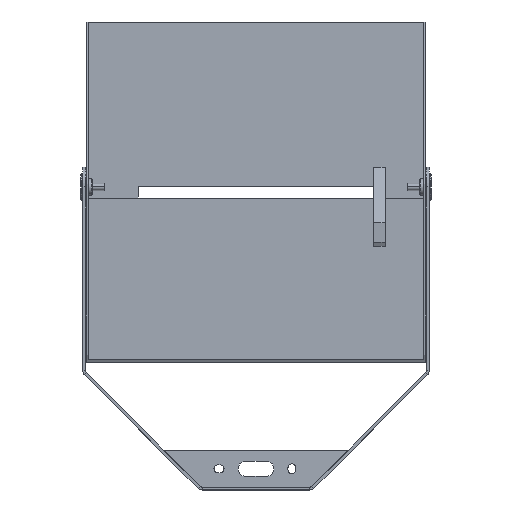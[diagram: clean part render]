
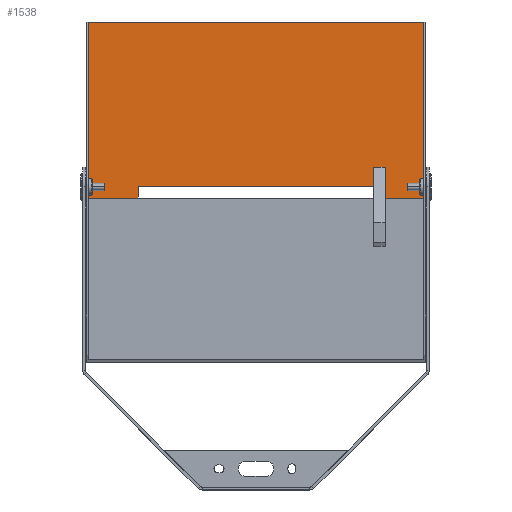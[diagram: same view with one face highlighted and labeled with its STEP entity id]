
A CAD part, top view. The second image highlights one B-rep face of the part: STEP entity #1538.
In plain terms, the highlighted planar face has unit normal (0, 0, 1).
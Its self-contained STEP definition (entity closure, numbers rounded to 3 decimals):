
#49=DIRECTION('',(0.,-1.,0.));
#50=VECTOR('',#49,43.985);
#51=CARTESIAN_POINT('',(179.75,35.525,28.));
#52=LINE('',#51,#50);
#53=DIRECTION('',(-1.,0.,0.));
#54=VECTOR('',#53,16.);
#55=CARTESIAN_POINT('',(179.75,35.525,28.));
#56=LINE('',#55,#54);
#57=DIRECTION('',(0.,1.,0.));
#58=VECTOR('',#57,27.065);
#59=CARTESIAN_POINT('',(163.75,8.46,28.));
#60=LINE('',#59,#58);
#61=DIRECTION('',(1.,0.,0.));
#62=VECTOR('',#61,327.5);
#63=CARTESIAN_POINT('',(-163.75,8.46,28.));
#64=LINE('',#63,#62);
#65=DIRECTION('',(0.,1.,0.));
#66=VECTOR('',#65,16.92);
#67=CARTESIAN_POINT('',(-163.75,-8.46,28.));
#68=LINE('',#67,#66);
#69=DIRECTION('',(0.,-1.,0.));
#70=VECTOR('',#69,246.376);
#71=CARTESIAN_POINT('',(-233.76,237.916,28.));
#72=LINE('',#71,#70);
#73=DIRECTION('',(1.,0.,0.));
#74=VECTOR('',#73,467.52);
#75=CARTESIAN_POINT('',(-233.76,237.916,28.));
#76=LINE('',#75,#74);
#77=DIRECTION('',(0.,-1.,0.));
#78=VECTOR('',#77,246.376);
#79=CARTESIAN_POINT('',(233.76,237.916,28.));
#80=LINE('',#79,#78);
#113=DIRECTION('',(1.,0.,0.));
#114=VECTOR('',#113,54.01);
#115=CARTESIAN_POINT('',(179.75,-8.46,28.));
#116=LINE('',#115,#114);
#125=DIRECTION('',(1.,0.,0.));
#126=VECTOR('',#125,70.01);
#127=CARTESIAN_POINT('',(-233.76,-8.46,28.));
#128=LINE('',#127,#126);
#1107=CARTESIAN_POINT('',(233.76,237.916,28.));
#1108=VERTEX_POINT('',#1107);
#1139=CARTESIAN_POINT('',(233.76,-8.46,28.));
#1140=VERTEX_POINT('',#1139);
#1141=CARTESIAN_POINT('',(-163.75,-8.46,28.));
#1142=CARTESIAN_POINT('',(-163.75,8.46,28.));
#1143=VERTEX_POINT('',#1141);
#1144=VERTEX_POINT('',#1142);
#1161=CARTESIAN_POINT('',(-233.76,237.916,28.));
#1162=CARTESIAN_POINT('',(-233.76,-8.46,28.));
#1163=VERTEX_POINT('',#1161);
#1164=VERTEX_POINT('',#1162);
#1269=CARTESIAN_POINT('',(179.75,35.525,28.));
#1270=CARTESIAN_POINT('',(179.75,-8.46,28.));
#1271=VERTEX_POINT('',#1269);
#1272=VERTEX_POINT('',#1270);
#1395=CARTESIAN_POINT('',(163.75,35.525,28.));
#1396=VERTEX_POINT('',#1395);
#1429=CARTESIAN_POINT('',(163.75,8.46,28.));
#1430=VERTEX_POINT('',#1429);
#1513=CARTESIAN_POINT('',(-235.96,235.96,28.));
#1514=DIRECTION('',(0.,0.,1.));
#1515=DIRECTION('',(0.,-1.,0.));
#1516=AXIS2_PLACEMENT_3D('',#1513,#1514,#1515);
#1517=PLANE('',#1516);
#1519=ORIENTED_EDGE('',*,*,#1518,.F.);
#1521=ORIENTED_EDGE('',*,*,#1520,.T.);
#1523=ORIENTED_EDGE('',*,*,#1522,.F.);
#1525=ORIENTED_EDGE('',*,*,#1524,.F.);
#1527=ORIENTED_EDGE('',*,*,#1526,.F.);
#1529=ORIENTED_EDGE('',*,*,#1528,.F.);
#1530=ORIENTED_EDGE('',*,*,#1499,.F.);
#1531=ORIENTED_EDGE('',*,*,#1475,.T.);
#1533=ORIENTED_EDGE('',*,*,#1532,.T.);
#1535=ORIENTED_EDGE('',*,*,#1534,.F.);
#1536=EDGE_LOOP('',(#1519,#1521,#1523,#1525,#1527,#1529,#1530,#1531,#1533,
#1535));
#1537=FACE_OUTER_BOUND('',#1536,.F.);
#1538=ADVANCED_FACE('',(#1537),#1517,.T.);
#1475=EDGE_CURVE('',#1163,#1108,#76,.T.);
#1499=EDGE_CURVE('',#1163,#1164,#72,.T.);
#1518=EDGE_CURVE('',#1271,#1272,#52,.T.);
#1520=EDGE_CURVE('',#1271,#1396,#56,.T.);
#1522=EDGE_CURVE('',#1430,#1396,#60,.T.);
#1524=EDGE_CURVE('',#1144,#1430,#64,.T.);
#1526=EDGE_CURVE('',#1143,#1144,#68,.T.);
#1528=EDGE_CURVE('',#1164,#1143,#128,.T.);
#1532=EDGE_CURVE('',#1108,#1140,#80,.T.);
#1534=EDGE_CURVE('',#1272,#1140,#116,.T.);
